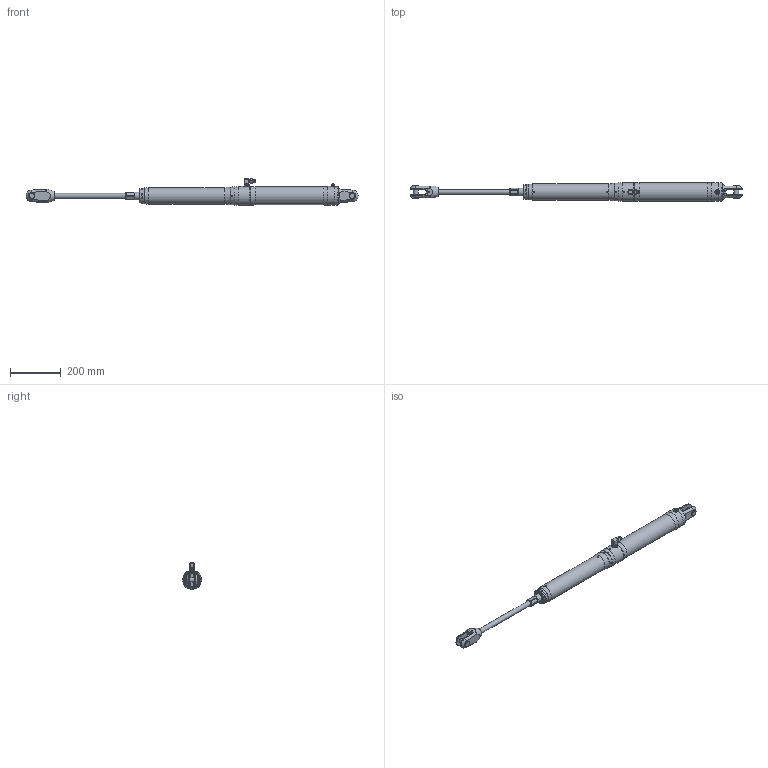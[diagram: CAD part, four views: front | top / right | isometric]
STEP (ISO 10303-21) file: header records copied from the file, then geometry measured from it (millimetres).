
FILE_DESCRIPTION(/* description */ (''),/* implementation_level */ '2;1');
FILE_NAME(/* name */ 'Q:\AA BRAND HYDRAULICS\HYDRAULICS FAMILY DIRECTORY\HYDRAULICS\CYLINDERS\MECHANICAL LOCK RAMS\ALUMINIUM - STAINLESS SINGLE ACTING (-0012 To -0150)\MSA-0022-S0275-NP-71\MSA-0022-S0275-NP-71 (Open).stp',/* time_stamp */ '2018-04-25T15:34:54+01:00',/* author */ ('Lorena'),/* organization */ (''),/* preprocessor_version */ 'ST-DEVELOPER v17',/* originating_system */ 'Autodesk Inventor 2018',/* authorisation */ '');
FILE_SCHEMA (('AUTOMOTIVE_DESIGN { 1 0 10303 214 3 1 1 }'));
Length unit declared in the file: millimetre
Products named in the file (1): MSA-0022-S0275-NP-71 (Open)
Bounding box: 1303.98 x 74.2 x 105 mm (x, y, z)
Volume: 3295171 mm3; surface area: 245062.6 mm2
Topology: 2 solids, 4 shells, 491 faces, 1285 edges, 837 vertices
Faces by surface type: plane 279, cone 120, cylinder 78, torus 5, bspline 5, sphere 4
Full cylindrical faces by diameter (mm): 4 x5, 4.2 x2, 4.4 x1, 5 x4, 5.1 x1, 7 x1, 9 x1, 10 x2, 11.11 x1, 11.157 x1, 11.5 x1, 11.8 x1, 12 x3, 12.157 x1, 13 x1, 13.157 x2, 14.5 x2, 18.3 x3, 19.05 x2, 19.5 x1, 22 x1, 23.812 x2, 30 x2, 31 x1, 34 x1, 59 x1, 65 x1, 71.2 x1, 74.2 x4
Entity records: 16673 total; most frequent: CARTESIAN_POINT 4216, ORIENTED_EDGE 2550, DIRECTION 2484, EDGE_CURVE 1275, AXIS2_PLACEMENT_3D 955, VERTEX_POINT 837, LINE 574, VECTOR 574
